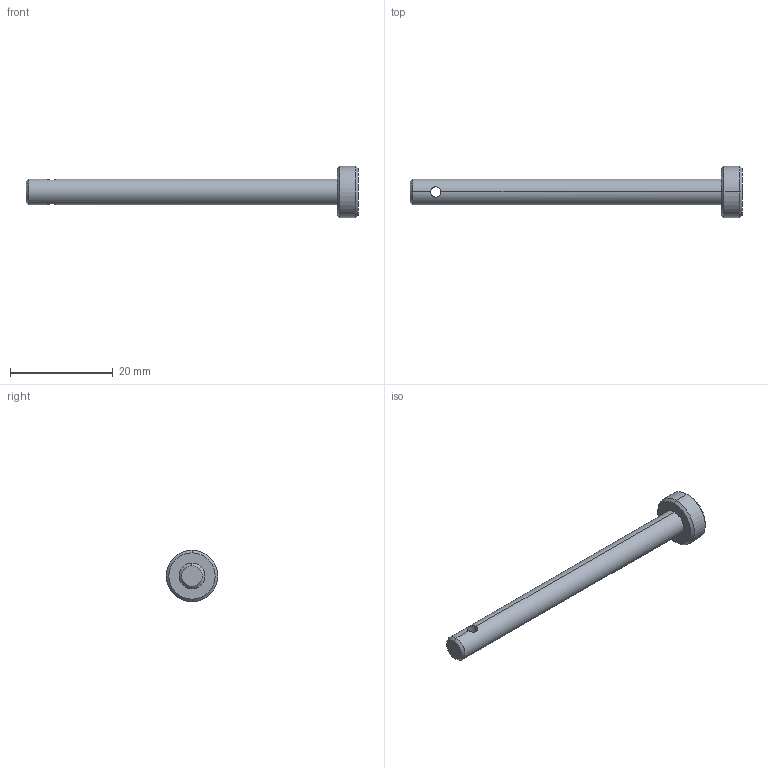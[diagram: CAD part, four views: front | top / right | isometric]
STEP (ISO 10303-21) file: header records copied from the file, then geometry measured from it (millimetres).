
FILE_DESCRIPTION (( 'STEP AP214' ), '1' );
FILE_NAME ('GZ29.16_V1销轴.STEP', '2021-05-08T03:41:33', ( '微软中国' ), ( 'Microsoft' ), 'SwSTEP 2.0', 'SolidWorks 2017', '' );
FILE_SCHEMA (( 'AUTOMOTIVE_DESIGN' ));
Length unit declared in the file: millimetre
Products named in the file (1): GZ29.16_V1种粣
Bounding box: 64.5 x 10 x 10 mm (x, y, z)
Volume: 1477.3 mm3; surface area: 1232.8 mm2
Topology: 1 solids, 1 shells, 15 faces, 32 edges, 18 vertices
Faces by surface type: cone 6, cylinder 6, plane 3
Entity records: 498 total; most frequent: CARTESIAN_POINT 134, DIRECTION 74, ORIENTED_EDGE 64, EDGE_CURVE 32, AXIS2_PLACEMENT_3D 30, VERTEX_POINT 18, EDGE_LOOP 16, ADVANCED_FACE 15
